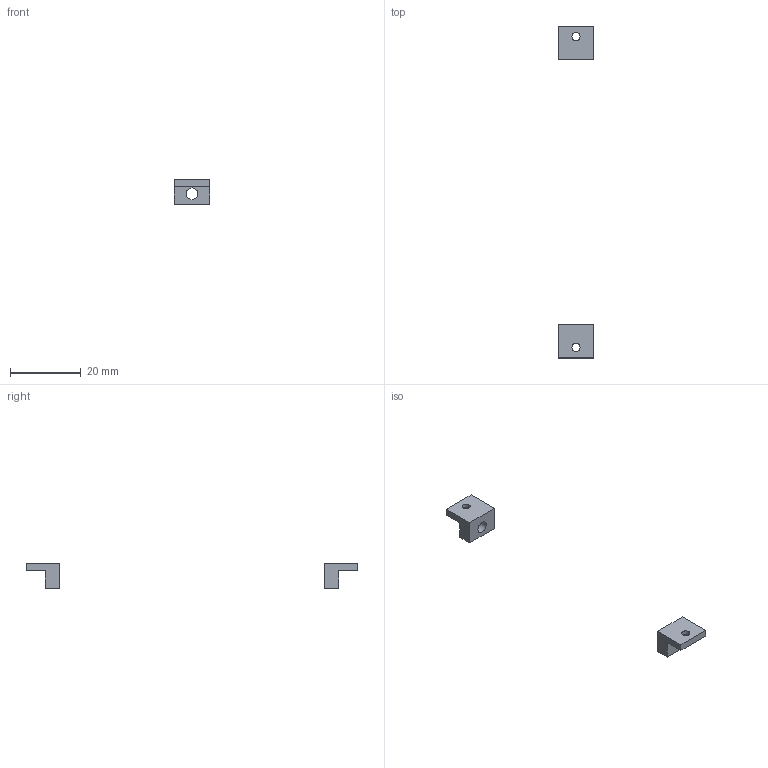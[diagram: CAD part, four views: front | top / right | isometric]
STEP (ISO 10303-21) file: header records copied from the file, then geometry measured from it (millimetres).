
FILE_DESCRIPTION(('Open CASCADE Model'),'2;1');
FILE_NAME('Open CASCADE Shape Model','2026-10-07T17:16:41',('Author'),( 'Open CASCADE'),'Open CASCADE STEP processor 8.0','build123d', 'Unknown');
FILE_SCHEMA(('AUTOMOTIVE_DESIGN { 1 0 10303 214 1 1 1 1 }'));
Length unit declared in the file: millimetre
Products named in the file (1): COMPOUND
Bounding box: 10 x 94 x 7 mm (x, y, z)
Volume: 675.4 mm3; surface area: 881.8 mm2
Topology: 2 solids, 2 shells, 24 faces, 54 edges, 36 vertices
Faces by surface type: plane 18, cylinder 6
Full cylindrical faces by diameter (mm): 2.3 x2, 3.3 x2, 4.2 x2
Entity records: 1404 total; most frequent: CARTESIAN_POINT 251, DIRECTION 216, LINE 134, VECTOR 134, ORIENTED_EDGE 108, PCURVE 108, DEFINITIONAL_REPRESENTATION 108, EDGE_CURVE 54
